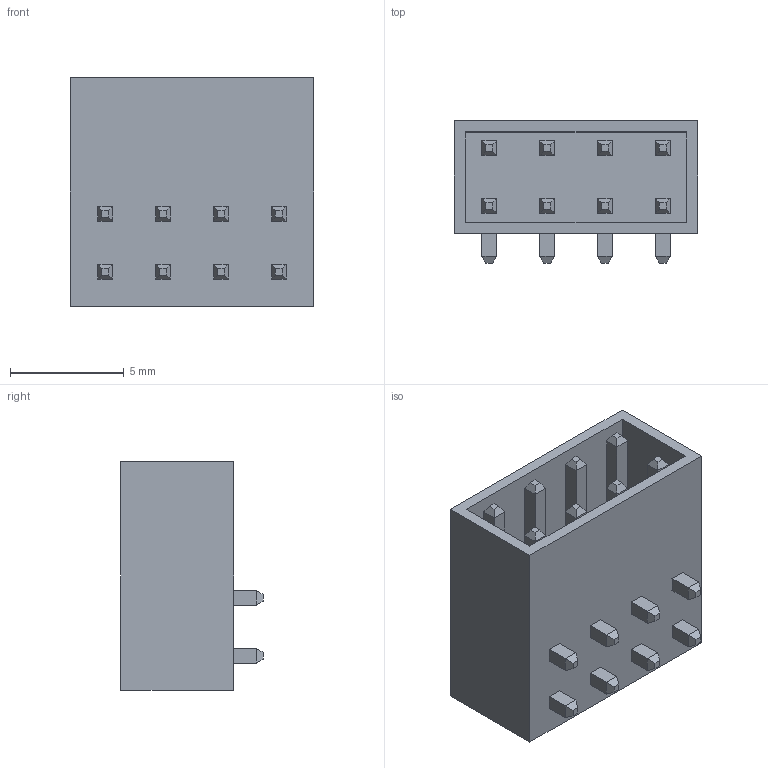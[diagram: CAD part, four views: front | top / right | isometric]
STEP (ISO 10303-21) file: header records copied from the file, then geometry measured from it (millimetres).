
FILE_DESCRIPTION (( 'STEP AP214' ), '1' );
FILE_NAME ( 'SHDRRA8W64P254_4X2_1067X1003H495P.STEP', '2014-04-11T12:31:22', ( '' ), ( '' ), 'FPX Expert 2013', 'PCB Libraries', '' );
FILE_SCHEMA (( 'AUTOMOTIVE_DESIGN' ));
Length unit declared in the file: millimetre
Products named in the file (1): SHDRRA8W64P254_4X2_1067X1003H495P
Bounding box: 10.67 x 6.25 x 10.03 mm (x, y, z)
Volume: 377.7 mm3; surface area: 853.5 mm2
Topology: 9 solids, 9 shells, 219 faces, 536 edges, 336 vertices
Faces by surface type: plane 187, cylinder 32
Entity records: 6882 total; most frequent: CARTESIAN_POINT 1092, ORIENTED_EDGE 1072, DIRECTION 1040, EDGE_CURVE 536, VECTOR 472, LINE 472, VERTEX_POINT 336, AXIS2_PLACEMENT_3D 284
